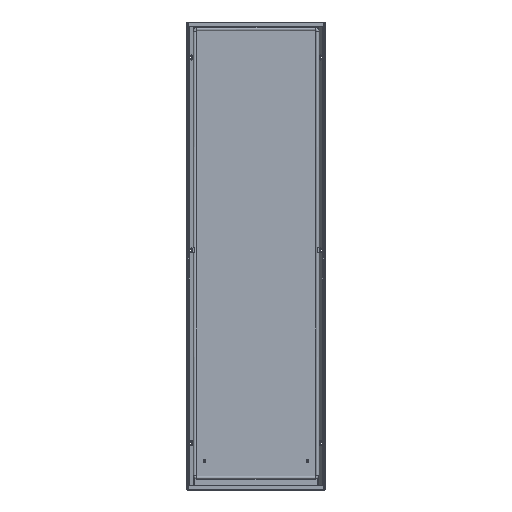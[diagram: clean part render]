
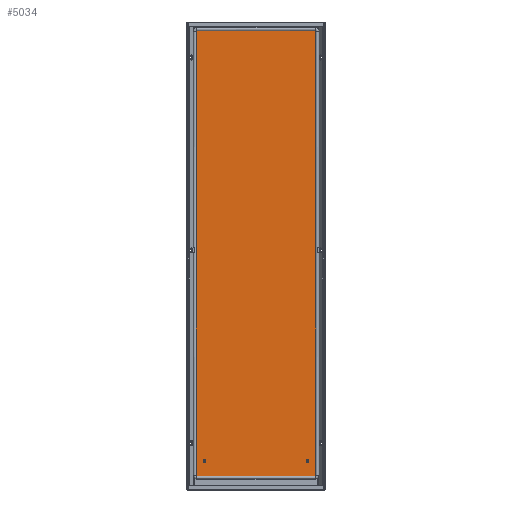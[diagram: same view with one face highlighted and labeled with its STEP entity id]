
A CAD part, top view. The second image highlights one B-rep face of the part: STEP entity #5034.
In plain terms, the highlighted planar face has unit normal (0, 0, 1).
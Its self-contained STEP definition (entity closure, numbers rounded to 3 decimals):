
#193 = DIRECTION ( 'NONE',  ( 0., 0., 1. ) ) ;
#373 = DIRECTION ( 'NONE',  ( 1., 0., 0. ) ) ;
#528 = EDGE_LOOP ( 'NONE', ( #1434, #7238, #3209, #3437, #3990, #5181, #6252, #1766 ) ) ;
#531 = DIRECTION ( 'NONE',  ( -1., 0., 0. ) ) ;
#551 = VERTEX_POINT ( 'NONE', #2977 ) ;
#609 = ORIENTED_EDGE ( 'NONE', *, *, #915, .F. ) ;
#634 = AXIS2_PLACEMENT_3D ( 'NONE', #6663, #3026, #7274 ) ;
#657 = AXIS2_PLACEMENT_3D ( 'NONE', #7669, #3996, #373 ) ;
#842 = AXIS2_PLACEMENT_3D ( 'NONE', #1456, #2058, #6326 ) ;
#915 = EDGE_CURVE ( 'NONE', #5122, #551, #1457, .T. ) ;
#977 = DIRECTION ( 'NONE',  ( 0., 0., -1. ) ) ;
#999 = DIRECTION ( 'NONE',  ( -1., 0., 0. ) ) ;
#1017 = CARTESIAN_POINT ( 'NONE',  ( 201.5, 757.5, 1. ) ) ;
#1157 = ORIENTED_EDGE ( 'NONE', *, *, #3893, .F. ) ;
#1292 = EDGE_CURVE ( 'NONE', #5150, #7745, #4467, .T. ) ;
#1294 = AXIS2_PLACEMENT_3D ( 'NONE', #7812, #4157, #531 ) ;
#1298 = VERTEX_POINT ( 'NONE', #3531 ) ;
#1315 = CIRCLE ( 'NONE', #1995, 4.5 ) ;
#1408 = CIRCLE ( 'NONE', #634, 2.5 ) ;
#1430 = CARTESIAN_POINT ( 'NONE',  ( 201.5, 757.5, 1. ) ) ;
#1434 = ORIENTED_EDGE ( 'NONE', *, *, #4329, .F. ) ;
#1456 = CARTESIAN_POINT ( 'NONE',  ( -234., 789., 1. ) ) ;
#1457 = CIRCLE ( 'NONE', #7237, 4.5 ) ;
#1504 = CARTESIAN_POINT ( 'NONE',  ( 201.5, -739.5, 1. ) ) ;
#1527 = ORIENTED_EDGE ( 'NONE', *, *, #4168, .F. ) ;
#1529 = CARTESIAN_POINT ( 'NONE',  ( 199., 760., 1. ) ) ;
#1625 = DIRECTION ( 'NONE',  ( 0., -1., 0. ) ) ;
#1683 = EDGE_LOOP ( 'NONE', ( #609, #1527 ) ) ;
#1732 = DIRECTION ( 'NONE',  ( 0., 0., -1. ) ) ;
#1766 = ORIENTED_EDGE ( 'NONE', *, *, #6855, .T. ) ;
#1808 = VERTEX_POINT ( 'NONE', #1848 ) ;
#1848 = CARTESIAN_POINT ( 'NONE',  ( 169.5, -691., 1. ) ) ;
#1923 = VERTEX_POINT ( 'NONE', #3757 ) ;
#1995 = AXIS2_PLACEMENT_3D ( 'NONE', #3414, #7685, #4019 ) ;
#1998 = DIRECTION ( 'NONE',  ( 0., 0., 1. ) ) ;
#2050 = CIRCLE ( 'NONE', #2458, 2.5 ) ;
#2058 = DIRECTION ( 'NONE',  ( 0., 0., 1. ) ) ;
#2458 = AXIS2_PLACEMENT_3D ( 'NONE', #4628, #977, #5235 ) ;
#2588 = VERTEX_POINT ( 'NONE', #2933 ) ;
#2933 = CARTESIAN_POINT ( 'NONE',  ( 178.5, -691., 1. ) ) ;
#2977 = CARTESIAN_POINT ( 'NONE',  ( -169.5, -691., 1. ) ) ;
#3026 = DIRECTION ( 'NONE',  ( 0., 0., -1. ) ) ;
#3034 = EDGE_LOOP ( 'NONE', ( #4971, #1157 ) ) ;
#3109 = CARTESIAN_POINT ( 'NONE',  ( 199., 760., 1. ) ) ;
#3121 = CIRCLE ( 'NONE', #1294, 2.5 ) ;
#3209 = ORIENTED_EDGE ( 'NONE', *, *, #4082, .F. ) ;
#3291 = DIRECTION ( 'NONE',  ( 0., 1., 0. ) ) ;
#3326 = VECTOR ( 'NONE', #999, 1000. ) ;
#3414 = CARTESIAN_POINT ( 'NONE',  ( 174., -691., 1. ) ) ;
#3437 = ORIENTED_EDGE ( 'NONE', *, *, #7099, .F. ) ;
#3513 = LINE ( 'NONE', #6476, #3326 ) ;
#3531 = CARTESIAN_POINT ( 'NONE',  ( -201.5, -739.5, 1. ) ) ;
#3581 = EDGE_CURVE ( 'NONE', #1298, #1923, #5362, .T. ) ;
#3757 = CARTESIAN_POINT ( 'NONE',  ( -201.5, 757.5, 1. ) ) ;
#3816 = CARTESIAN_POINT ( 'NONE',  ( -174., -691., 1. ) ) ;
#3893 = EDGE_CURVE ( 'NONE', #2588, #1808, #1315, .T. ) ;
#3894 = CARTESIAN_POINT ( 'NONE',  ( -201.5, -739.5, 1. ) ) ;
#3990 = ORIENTED_EDGE ( 'NONE', *, *, #5169, .F. ) ;
#3996 = DIRECTION ( 'NONE',  ( 0., 0., 1. ) ) ;
#4019 = DIRECTION ( 'NONE',  ( 1., 0., 0. ) ) ;
#4082 = EDGE_CURVE ( 'NONE', #7025, #1298, #1408, .T. ) ;
#4087 = CARTESIAN_POINT ( 'NONE',  ( -199., 760., 1. ) ) ;
#4151 = LINE ( 'NONE', #1017, #7206 ) ;
#4157 = DIRECTION ( 'NONE',  ( 0., 0., -1. ) ) ;
#4168 = EDGE_CURVE ( 'NONE', #551, #5122, #5699, .T. ) ;
#4225 = VECTOR ( 'NONE', #3291, 1000. ) ;
#4238 = FACE_OUTER_BOUND ( 'NONE', #528, .T. ) ;
#4292 = AXIS2_PLACEMENT_3D ( 'NONE', #5651, #1998, #6260 ) ;
#4325 = DIRECTION ( 'NONE',  ( -1., 0., 0. ) ) ;
#4329 = EDGE_CURVE ( 'NONE', #1923, #5732, #3121, .T. ) ;
#4431 = DIRECTION ( 'NONE',  ( 1., 0., 0. ) ) ;
#4452 = CIRCLE ( 'NONE', #657, 4.5 ) ;
#4467 = CIRCLE ( 'NONE', #6532, 2.5 ) ;
#4628 = CARTESIAN_POINT ( 'NONE',  ( 199., -739.5, 1. ) ) ;
#4819 = CARTESIAN_POINT ( 'NONE',  ( 199., -742., 1. ) ) ;
#4830 = EDGE_CURVE ( 'NONE', #7745, #6153, #4151, .T. ) ;
#4971 = ORIENTED_EDGE ( 'NONE', *, *, #7848, .F. ) ;
#5034 = ADVANCED_FACE ( 'NONE', ( #4238, #7496, #5681 ), #6294, .T. ) ;
#5045 = LINE ( 'NONE', #3109, #6668 ) ;
#5122 = VERTEX_POINT ( 'NONE', #6996 ) ;
#5150 = VERTEX_POINT ( 'NONE', #1529 ) ;
#5169 = EDGE_CURVE ( 'NONE', #6153, #7256, #2050, .T. ) ;
#5181 = ORIENTED_EDGE ( 'NONE', *, *, #4830, .F. ) ;
#5235 = DIRECTION ( 'NONE',  ( -1., 0., 0. ) ) ;
#5362 = LINE ( 'NONE', #3894, #4225 ) ;
#5382 = CARTESIAN_POINT ( 'NONE',  ( 199., 757.5, 1. ) ) ;
#5651 = CARTESIAN_POINT ( 'NONE',  ( -174., -691., 1. ) ) ;
#5681 = FACE_BOUND ( 'NONE', #1683, .T. ) ;
#5699 = CIRCLE ( 'NONE', #4292, 4.5 ) ;
#5732 = VERTEX_POINT ( 'NONE', #4087 ) ;
#5796 = CARTESIAN_POINT ( 'NONE',  ( -199., -742., 1. ) ) ;
#5990 = DIRECTION ( 'NONE',  ( -1., 0., 0. ) ) ;
#6153 = VERTEX_POINT ( 'NONE', #1504 ) ;
#6252 = ORIENTED_EDGE ( 'NONE', *, *, #1292, .F. ) ;
#6260 = DIRECTION ( 'NONE',  ( 1., 0., 0. ) ) ;
#6294 = PLANE ( 'NONE',  #842 ) ;
#6326 = DIRECTION ( 'NONE',  ( 1., 0., 0. ) ) ;
#6476 = CARTESIAN_POINT ( 'NONE',  ( 199., -742., 1. ) ) ;
#6532 = AXIS2_PLACEMENT_3D ( 'NONE', #5382, #1732, #5990 ) ;
#6663 = CARTESIAN_POINT ( 'NONE',  ( -199., -739.5, 1. ) ) ;
#6668 = VECTOR ( 'NONE', #4325, 1000. ) ;
#6855 = EDGE_CURVE ( 'NONE', #5150, #5732, #5045, .T. ) ;
#6996 = CARTESIAN_POINT ( 'NONE',  ( -178.5, -691., 1. ) ) ;
#7025 = VERTEX_POINT ( 'NONE', #5796 ) ;
#7099 = EDGE_CURVE ( 'NONE', #7256, #7025, #3513, .T. ) ;
#7206 = VECTOR ( 'NONE', #1625, 1000. ) ;
#7237 = AXIS2_PLACEMENT_3D ( 'NONE', #3816, #193, #4431 ) ;
#7238 = ORIENTED_EDGE ( 'NONE', *, *, #3581, .F. ) ;
#7256 = VERTEX_POINT ( 'NONE', #4819 ) ;
#7274 = DIRECTION ( 'NONE',  ( -1., 0., 0. ) ) ;
#7496 = FACE_BOUND ( 'NONE', #3034, .T. ) ;
#7669 = CARTESIAN_POINT ( 'NONE',  ( 174., -691., 1. ) ) ;
#7685 = DIRECTION ( 'NONE',  ( 0., 0., 1. ) ) ;
#7745 = VERTEX_POINT ( 'NONE', #1430 ) ;
#7812 = CARTESIAN_POINT ( 'NONE',  ( -199., 757.5, 1. ) ) ;
#7848 = EDGE_CURVE ( 'NONE', #1808, #2588, #4452, .T. ) ;
